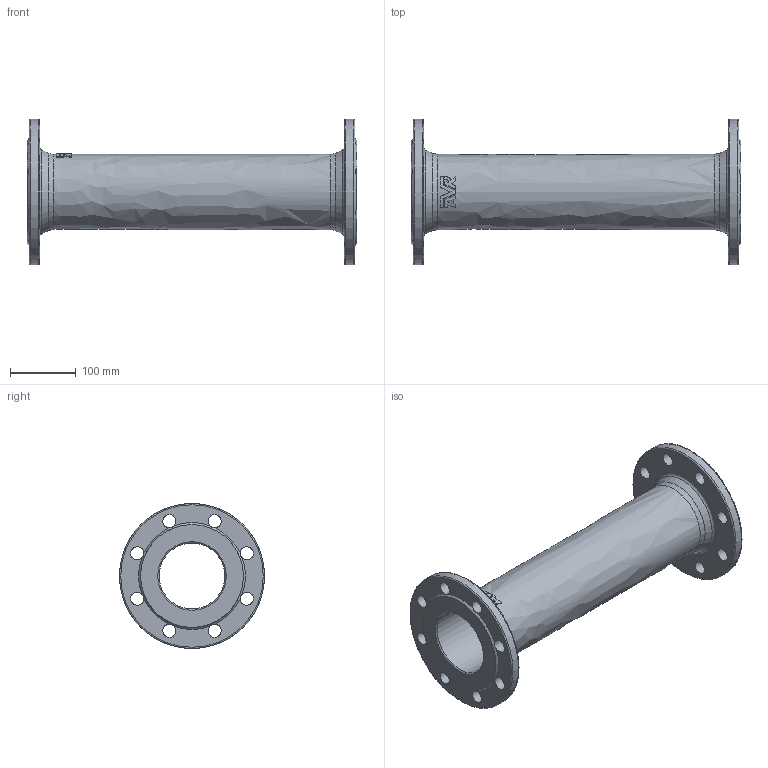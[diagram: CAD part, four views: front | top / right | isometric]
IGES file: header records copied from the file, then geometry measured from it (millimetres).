
Start section: SolidWorks IGES file using analytic representation for surfaces
Global section: file name: \\avksan2\techshare\PBM outline export from Enovia\O_712_4810_DN100_1X_REV01.igs; native system: SolidWorks 2019; preprocessor: SolidWorks 2019; author: pbm; date: 211201.111455; units: millimetre
Bounding box: 500 x 220 x 220 mm (x, y, z)
Surface area: 460778.7 mm2 (no closed solid volume)
Topology: 0 solids, 0 shells, 81 faces, 509 edges, 474 vertices
Faces by surface type: bspline 43, revolution 38
